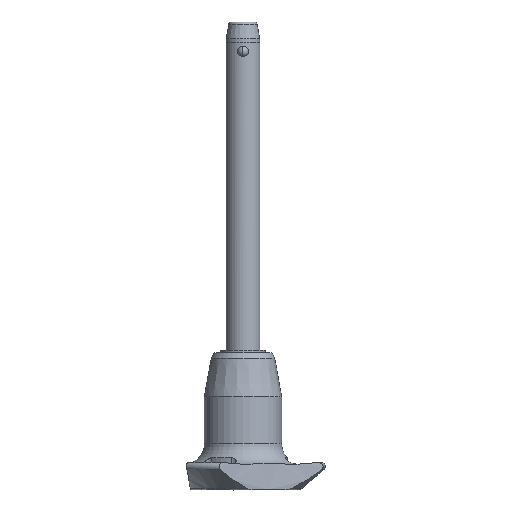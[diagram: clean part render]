
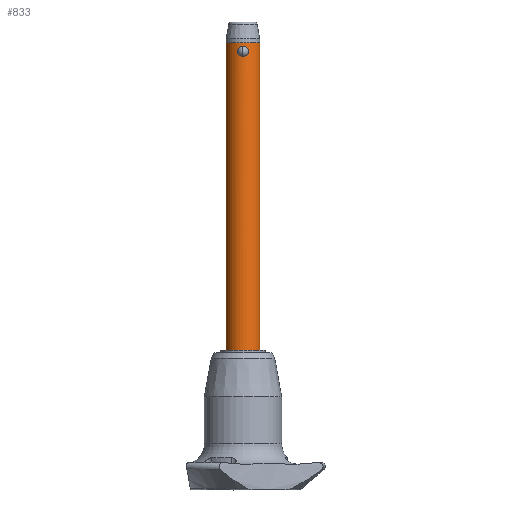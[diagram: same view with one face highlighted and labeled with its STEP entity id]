
A CAD part, front view. The second image highlights one B-rep face of the part: STEP entity #833.
In plain terms, the highlighted cylindrical face has radius 4 mm (diameter 8 mm), a partial arc.
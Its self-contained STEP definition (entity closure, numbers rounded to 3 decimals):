
#39 = EDGE_CURVE ( 'NONE', #1571, #2779, #1864, .T. ) ;
#103 = CARTESIAN_POINT ( 'NONE',  ( 1.266, -3.794, 1.281 ) ) ;
#131 = CARTESIAN_POINT ( 'NONE',  ( 0.326, -3.99, 0.029 ) ) ;
#144 = CARTESIAN_POINT ( 'NONE',  ( -0.553, -3.962, 2.285 ) ) ;
#161 = CARTESIAN_POINT ( 'NONE',  ( -4., 0., -70. ) ) ;
#172 = CARTESIAN_POINT ( 'NONE',  ( -0.325, -3.99, 2.371 ) ) ;
#238 = DIRECTION ( 'NONE',  ( 0., 0., 1. ) ) ;
#335 = CARTESIAN_POINT ( 'NONE',  ( -0.762, -3.927, 2.166 ) ) ;
#346 = CARTESIAN_POINT ( 'NONE',  ( 0.162, -4., 0. ) ) ;
#375 = CARTESIAN_POINT ( 'NONE',  ( -0.827, -3.914, 2.117 ) ) ;
#380 = AXIS2_PLACEMENT_3D ( 'NONE', #526, #1795, #931 ) ;
#389 = CARTESIAN_POINT ( 'NONE',  ( -1.231, -3.806, 1.527 ) ) ;
#526 = CARTESIAN_POINT ( 'NONE',  ( 0., 0., -70. ) ) ;
#529 = CARTESIAN_POINT ( 'NONE',  ( 4., 0., -70. ) ) ;
#543 = CARTESIAN_POINT ( 'NONE',  ( 0.627, -3.953, 0.143 ) ) ;
#545 = CARTESIAN_POINT ( 'NONE',  ( 4., 0., 3.28 ) ) ;
#546 = VECTOR ( 'NONE', #983, 1000. ) ;
#547 = CARTESIAN_POINT ( 'NONE',  ( -1.199, -3.816, 0.802 ) ) ;
#568 = ORIENTED_EDGE ( 'NONE', *, *, #2230, .F. ) ;
#596 = CARTESIAN_POINT ( 'NONE',  ( -0.162, -4., 0. ) ) ;
#714 = FACE_BOUND ( 'NONE', #1139, .T. ) ;
#736 = CARTESIAN_POINT ( 'NONE',  ( 1.231, -3.806, 0.873 ) ) ;
#774 = CARTESIAN_POINT ( 'NONE',  ( 0., -4., 0. ) ) ;
#795 = B_SPLINE_CURVE_WITH_KNOTS ( 'NONE', 3,
 ( #774, #346, #131, #543, #1814, #1212, #977, #2299, #2044, #736, #2086, #103, #1843, #1593, #2260, #1634, #965, #2489, #2271, #2516, #1000, #1866 ),
 .UNSPECIFIED., .F., .F.,
 ( 4, 2, 2, 2, 2, 2, 2, 2, 2, 2, 4 ),
 ( 0.004, 0.004, 0.005, 0.005, 0.005, 0.006, 0.006, 0.006, 0.007, 0.007, 0.008 ),
 .UNSPECIFIED. ) ;
#804 = CARTESIAN_POINT ( 'NONE',  ( -0.326, -3.99, 0.029 ) ) ;
#833 = ADVANCED_FACE ( 'NONE', ( #1181, #714 ), #945, .T. ) ;
#909 = ORIENTED_EDGE ( 'NONE', *, *, #1258, .F. ) ;
#915 = DIRECTION ( 'NONE',  ( 1., 0., 0. ) ) ;
#931 = DIRECTION ( 'NONE',  ( 1., 0., 0. ) ) ;
#945 = CYLINDRICAL_SURFACE ( 'NONE', #380, 4. ) ;
#965 = CARTESIAN_POINT ( 'NONE',  ( 1.005, -3.874, 1.953 ) ) ;
#977 = CARTESIAN_POINT ( 'NONE',  ( 0.999, -3.874, 0.452 ) ) ;
#983 = DIRECTION ( 'NONE',  ( 0., 0., 1. ) ) ;
#1000 = CARTESIAN_POINT ( 'NONE',  ( 0.164, -4., 2.4 ) ) ;
#1004 = CARTESIAN_POINT ( 'NONE',  ( -1.133, -3.836, 1.747 ) ) ;
#1020 = CARTESIAN_POINT ( 'NONE',  ( -1.005, -3.874, 0.447 ) ) ;
#1034 = CARTESIAN_POINT ( 'NONE',  ( -1.092, -3.848, 1.818 ) ) ;
#1038 = CARTESIAN_POINT ( 'NONE',  ( 0., -4., 2.4 ) ) ;
#1102 = VERTEX_POINT ( 'NONE', #1038 ) ;
#1125 = ORIENTED_EDGE ( 'NONE', *, *, #39, .T. ) ;
#1139 = EDGE_LOOP ( 'NONE', ( #909, #1287 ) ) ;
#1181 = FACE_OUTER_BOUND ( 'NONE', #2116, .T. ) ;
#1212 = CARTESIAN_POINT ( 'NONE',  ( 0.944, -3.887, 0.391 ) ) ;
#1227 = CARTESIAN_POINT ( 'NONE',  ( -1.224, -3.808, 0.879 ) ) ;
#1258 = EDGE_CURVE ( 'NONE', #1102, #2069, #2070, .T. ) ;
#1287 = ORIENTED_EDGE ( 'NONE', *, *, #1969, .F. ) ;
#1337 = CARTESIAN_POINT ( 'NONE',  ( 0., 0., 3.28 ) ) ;
#1380 = DIRECTION ( 'NONE',  ( 0., 0., 1. ) ) ;
#1438 = CARTESIAN_POINT ( 'NONE',  ( -1.258, -3.797, 1.038 ) ) ;
#1451 = CARTESIAN_POINT ( 'NONE',  ( 0., -4., 0. ) ) ;
#1533 = VERTEX_POINT ( 'NONE', #1844 ) ;
#1571 = VERTEX_POINT ( 'NONE', #2729 ) ;
#1593 = CARTESIAN_POINT ( 'NONE',  ( 1.224, -3.808, 1.52 ) ) ;
#1634 = CARTESIAN_POINT ( 'NONE',  ( 1.101, -3.846, 1.82 ) ) ;
#1639 = CARTESIAN_POINT ( 'NONE',  ( -0.998, -3.874, 1.949 ) ) ;
#1655 = LINE ( 'NONE', #161, #546 ) ;
#1660 = CARTESIAN_POINT ( 'NONE',  ( 0., -4., 0. ) ) ;
#1795 = DIRECTION ( 'NONE',  ( 0., 0., 1. ) ) ;
#1814 = CARTESIAN_POINT ( 'NONE',  ( 0.768, -3.927, 0.228 ) ) ;
#1828 = EDGE_CURVE ( 'NONE', #1533, #2779, #2479, .T. ) ;
#1836 = DIRECTION ( 'NONE',  ( 0., 0., -1. ) ) ;
#1843 = CARTESIAN_POINT ( 'NONE',  ( 1.258, -3.797, 1.361 ) ) ;
#1844 = CARTESIAN_POINT ( 'NONE',  ( -4., 0., 3.28 ) ) ;
#1848 = CARTESIAN_POINT ( 'NONE',  ( -0.164, -4., 2.4 ) ) ;
#1859 = CARTESIAN_POINT ( 'NONE',  ( -1.266, -3.794, 1.12 ) ) ;
#1864 = LINE ( 'NONE', #529, #2603 ) ;
#1866 = CARTESIAN_POINT ( 'NONE',  ( 0., -4., 2.4 ) ) ;
#1882 = CARTESIAN_POINT ( 'NONE',  ( -0.768, -3.927, 0.228 ) ) ;
#1894 = CARTESIAN_POINT ( 'NONE',  ( -1.266, -3.794, 1.364 ) ) ;
#1906 = VERTEX_POINT ( 'NONE', #2042 ) ;
#1948 = CARTESIAN_POINT ( 'NONE',  ( 0., 0., -70. ) ) ;
#1969 = EDGE_CURVE ( 'NONE', #2069, #1102, #795, .T. ) ;
#2042 = CARTESIAN_POINT ( 'NONE',  ( -4., 0., -70. ) ) ;
#2044 = CARTESIAN_POINT ( 'NONE',  ( 1.132, -3.836, 0.651 ) ) ;
#2069 = VERTEX_POINT ( 'NONE', #1660 ) ;
#2070 = B_SPLINE_CURVE_WITH_KNOTS ( 'NONE', 3,
 ( #2089, #1848, #172, #144, #2533, #335, #375, #2544, #1639, #1034, #1004, #389, #1894, #1859, #1438, #1227, #547, #2103, #1020, #1882, #2757, #804, #596, #1451 ),
 .UNSPECIFIED., .F., .F.,
 ( 4, 2, 2, 2, 2, 2, 2, 2, 2, 2, 2, 4 ),
 ( 0., 0., 0.001, 0.001, 0.001, 0.001, 0.002, 0.002, 0.002, 0.003, 0.003, 0.004 ),
 .UNSPECIFIED. ) ;
#2086 = CARTESIAN_POINT ( 'NONE',  ( 1.266, -3.794, 1.035 ) ) ;
#2089 = CARTESIAN_POINT ( 'NONE',  ( 0., -4., 2.4 ) ) ;
#2103 = CARTESIAN_POINT ( 'NONE',  ( -1.101, -3.846, 0.579 ) ) ;
#2116 = EDGE_LOOP ( 'NONE', ( #2405, #568, #1125, #2208 ) ) ;
#2182 = DIRECTION ( 'NONE',  ( 1., 0., 0. ) ) ;
#2208 = ORIENTED_EDGE ( 'NONE', *, *, #1828, .F. ) ;
#2211 = AXIS2_PLACEMENT_3D ( 'NONE', #1948, #1836, #2182 ) ;
#2230 = EDGE_CURVE ( 'NONE', #1571, #1906, #2658, .T. ) ;
#2260 = CARTESIAN_POINT ( 'NONE',  ( 1.199, -3.816, 1.599 ) ) ;
#2271 = CARTESIAN_POINT ( 'NONE',  ( 0.629, -3.953, 2.256 ) ) ;
#2299 = CARTESIAN_POINT ( 'NONE',  ( 1.092, -3.848, 0.582 ) ) ;
#2316 = EDGE_CURVE ( 'NONE', #1906, #1533, #1655, .T. ) ;
#2405 = ORIENTED_EDGE ( 'NONE', *, *, #2316, .F. ) ;
#2479 = CIRCLE ( 'NONE', #2790, 4. ) ;
#2489 = CARTESIAN_POINT ( 'NONE',  ( 0.769, -3.927, 2.171 ) ) ;
#2516 = CARTESIAN_POINT ( 'NONE',  ( 0.326, -3.99, 2.371 ) ) ;
#2533 = CARTESIAN_POINT ( 'NONE',  ( -0.625, -3.951, 2.25 ) ) ;
#2544 = CARTESIAN_POINT ( 'NONE',  ( -0.945, -3.887, 2.008 ) ) ;
#2603 = VECTOR ( 'NONE', #1380, 1000. ) ;
#2658 = CIRCLE ( 'NONE', #2211, 4. ) ;
#2729 = CARTESIAN_POINT ( 'NONE',  ( 4., 0., -70. ) ) ;
#2757 = CARTESIAN_POINT ( 'NONE',  ( -0.628, -3.953, 0.143 ) ) ;
#2779 = VERTEX_POINT ( 'NONE', #545 ) ;
#2790 = AXIS2_PLACEMENT_3D ( 'NONE', #1337, #238, #915 ) ;
